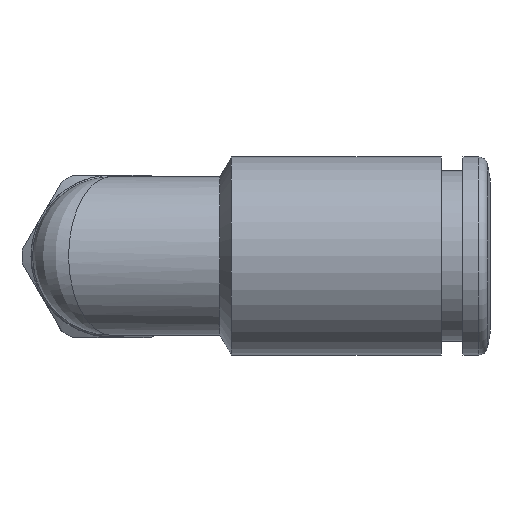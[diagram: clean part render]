
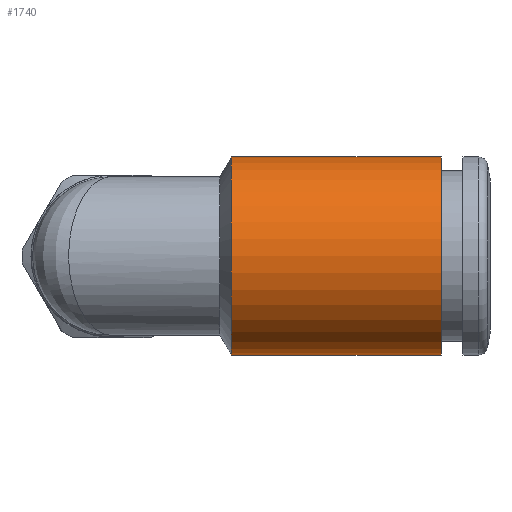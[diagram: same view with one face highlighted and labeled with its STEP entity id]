
A CAD part, top view. The second image highlights one B-rep face of the part: STEP entity #1740.
In plain terms, the highlighted cylindrical face has radius 5.5 mm (diameter 11 mm), a full revolution.
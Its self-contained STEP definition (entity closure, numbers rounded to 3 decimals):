
#1740=ADVANCED_FACE('', (#1750,#1760), #1770, .T.);
#5820=AXIS2_PLACEMENT_3D('Ax2Pl3d', #5830, #5840, #5850);
#6780=AXIS2_PLACEMENT_3D('Ax2Pl3d', #6790, #6800, #6810);
#6820=AXIS2_PLACEMENT_3D('Ax2Pl3d', #6830, #6840, #6850);
#5830=CARTESIAN_POINT('HicPkt', (27.713,10.529,
18.914));
#22340=CARTESIAN_POINT('', (27.713,10.529,24.414));
#6790=CARTESIAN_POINT('HicPkt', (16.048,10.529,
18.914));
#22480=CARTESIAN_POINT('', (16.048,10.529,24.414));
#6830=CARTESIAN_POINT('HicPkt', (16.048,10.529,
18.914));
#23420=CIRCLE('Circle', #5820, 5.5);
#23520=CIRCLE('Circle', #6780, 5.5);
#1770=CYLINDRICAL_SURFACE('Zyl', #6820, 5.5);
#5840=DIRECTION('Axis', (-1.,0.,0.))
;
#5850=DIRECTION('RefDirection', (0.,
0.,-1.));
#6800=DIRECTION('Axis', (-1.,0.,0.))
;
#6810=DIRECTION('RefDirection', (0.,
0.,-1.));
#6840=DIRECTION('Axis', (1.,0.,0.));
#6850=DIRECTION('RefDirection', (0.,0.,-1.));
#28060=EDGE_CURVE('', #28070, #28070, #23420, .T.);
#28440=EDGE_CURVE('', #28450, #28450, #23520, .T.);
#31490=EDGE_LOOP('Edge_loop', (#31500));
#31510=EDGE_LOOP('Edge_loop', (#31520));
#1760=FACE_BOUND('', #31510, .T.);
#1750=FACE_OUTER_BOUND('Face_outer_bound', #31490, .T.);
#31500=ORIENTED_EDGE('', *, *, #28060, .T.);
#31520=ORIENTED_EDGE('', *, *, #28440, .F.);
#28070=VERTEX_POINT('', #22340);
#28450=VERTEX_POINT('', #22480);
